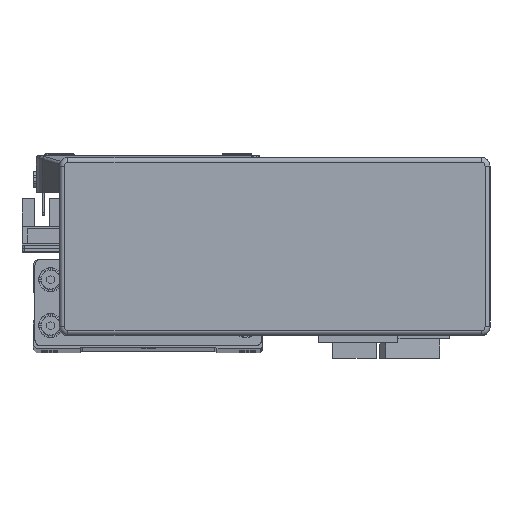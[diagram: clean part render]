
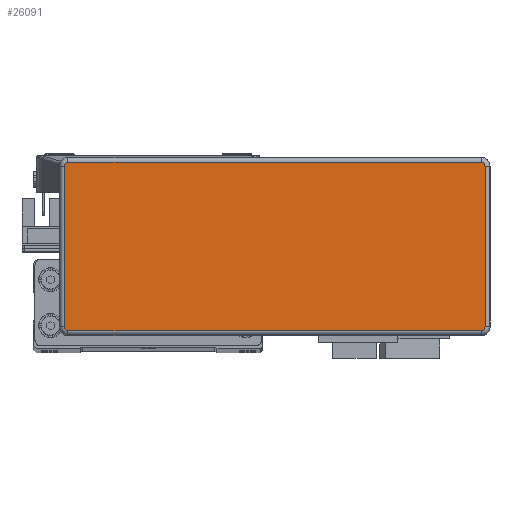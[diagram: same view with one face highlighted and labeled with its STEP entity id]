
A CAD part, top view. The second image highlights one B-rep face of the part: STEP entity #26091.
In plain terms, the highlighted planar face has unit normal (0, 0, 1) as drawn and (0, 0, -1) by its records, which use the part's own axes.
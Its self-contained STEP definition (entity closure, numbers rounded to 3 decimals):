
#12858 = EDGE_LOOP ( 'NONE', ( #29948, #29973, #29989, #29965, #29983, #29974, #29980, #29954 ) ) ;
#13382 = AXIS2_PLACEMENT_3D ( 'NONE', #23729, #23755, #23735 ) ;
#22983 = CARTESIAN_POINT ( 'NONE',  ( 73.295, -27.995, -32.2 ) ) ;
#23000 = CARTESIAN_POINT ( 'NONE',  ( -73.295, -27.995, -32.2 ) ) ;
#23010 = CARTESIAN_POINT ( 'NONE',  ( -71.995, 29.295, -32.2 ) ) ;
#23044 = CARTESIAN_POINT ( 'NONE',  ( -71.995, -29.295, -32.2 ) ) ;
#23051 = CARTESIAN_POINT ( 'NONE',  ( -73.295, 27.995, -32.2 ) ) ;
#23052 = CARTESIAN_POINT ( 'NONE',  ( 71.995, -29.295, -32.2 ) ) ;
#23059 = CARTESIAN_POINT ( 'NONE',  ( 73.295, 27.995, -32.2 ) ) ;
#23065 = CARTESIAN_POINT ( 'NONE',  ( 71.995, 29.295, -32.2 ) ) ;
#23729 = CARTESIAN_POINT ( 'NONE',  ( 71.995, -27.995, -32.2 ) ) ;
#23733 = PLANE ( 'NONE',  #13382 ) ;
#23735 = DIRECTION ( 'NONE',  ( 1., 0., 0. ) ) ;
#23755 = DIRECTION ( 'NONE',  ( 0., 0., 1. ) ) ;
#25762 = VERTEX_POINT ( 'NONE', #23000 ) ;
#25776 = VERTEX_POINT ( 'NONE', #23044 ) ;
#25780 = VERTEX_POINT ( 'NONE', #22983 ) ;
#25788 = VERTEX_POINT ( 'NONE', #23010 ) ;
#25793 = VERTEX_POINT ( 'NONE', #23052 ) ;
#25802 = VERTEX_POINT ( 'NONE', #23059 ) ;
#25830 = VERTEX_POINT ( 'NONE', #23051 ) ;
#25852 = VERTEX_POINT ( 'NONE', #23065 ) ;
#26091 = ADVANCED_FACE ( 'NONE', ( #29946 ), #23733, .F. ) ;
#29946 = FACE_OUTER_BOUND ( 'NONE', #12858, .T. ) ;
#29948 = ORIENTED_EDGE ( 'NONE', *, *, #34763, .T. ) ;
#29954 = ORIENTED_EDGE ( 'NONE', *, *, #34776, .T. ) ;
#29965 = ORIENTED_EDGE ( 'NONE', *, *, #34739, .T. ) ;
#29973 = ORIENTED_EDGE ( 'NONE', *, *, #34706, .T. ) ;
#29974 = ORIENTED_EDGE ( 'NONE', *, *, #34748, .T. ) ;
#29980 = ORIENTED_EDGE ( 'NONE', *, *, #34747, .T. ) ;
#29983 = ORIENTED_EDGE ( 'NONE', *, *, #34715, .T. ) ;
#29989 = ORIENTED_EDGE ( 'NONE', *, *, #34786, .T. ) ;
#31802 = LINE ( 'NONE', #33140, #31805 ) ;
#31805 = VECTOR ( 'NONE', #33150, 1000. ) ;
#31829 = CIRCLE ( 'NONE', #45362, 1.3 ) ;
#31874 = CIRCLE ( 'NONE', #45353, 1.3 ) ;
#31890 = VECTOR ( 'NONE', #36398, 1000. ) ;
#31897 = LINE ( 'NONE', #36384, #31890 ) ;
#31904 = CIRCLE ( 'NONE', #45374, 1.3 ) ;
#31913 = LINE ( 'NONE', #36478, #31968 ) ;
#31926 = CIRCLE ( 'NONE', #45451, 1.3 ) ;
#31962 = VECTOR ( 'NONE', #36499, 1000. ) ;
#31968 = VECTOR ( 'NONE', #36454, 1000. ) ;
#31977 = LINE ( 'NONE', #36511, #31962 ) ;
#33120 = DIRECTION ( 'NONE',  ( 1., 0., 0. ) ) ;
#33128 = DIRECTION ( 'NONE',  ( 0., 0., -1. ) ) ;
#33140 = CARTESIAN_POINT ( 'NONE',  ( -73.295, -27.995, -32.2 ) ) ;
#33144 = CARTESIAN_POINT ( 'NONE',  ( 71.995, -27.995, -32.2 ) ) ;
#33150 = DIRECTION ( 'NONE',  ( 0., 1., 0. ) ) ;
#34706 = EDGE_CURVE ( 'NONE', #25780, #25793, #31829, .T. ) ;
#34715 = EDGE_CURVE ( 'NONE', #25762, #25830, #31802, .T. ) ;
#34739 = EDGE_CURVE ( 'NONE', #25776, #25762, #31874, .T. ) ;
#34747 = EDGE_CURVE ( 'NONE', #25788, #25852, #31897, .T. ) ;
#34748 = EDGE_CURVE ( 'NONE', #25830, #25788, #31904, .T. ) ;
#34763 = EDGE_CURVE ( 'NONE', #25802, #25780, #31913, .T. ) ;
#34776 = EDGE_CURVE ( 'NONE', #25852, #25802, #31926, .T. ) ;
#34786 = EDGE_CURVE ( 'NONE', #25793, #25776, #31977, .T. ) ;
#36384 = CARTESIAN_POINT ( 'NONE',  ( 71.995, 29.295, -32.2 ) ) ;
#36398 = DIRECTION ( 'NONE',  ( 1., 0., 0. ) ) ;
#36400 = DIRECTION ( 'NONE',  ( 1., 0., 0. ) ) ;
#36405 = CARTESIAN_POINT ( 'NONE',  ( -71.995, -27.995, -32.2 ) ) ;
#36406 = DIRECTION ( 'NONE',  ( 0., 0., -1. ) ) ;
#36420 = DIRECTION ( 'NONE',  ( 0., 0., -1. ) ) ;
#36426 = DIRECTION ( 'NONE',  ( 1., 0., 0. ) ) ;
#36439 = CARTESIAN_POINT ( 'NONE',  ( -71.995, 27.995, -32.2 ) ) ;
#36454 = DIRECTION ( 'NONE',  ( 0., -1., 0. ) ) ;
#36478 = CARTESIAN_POINT ( 'NONE',  ( 73.295, -27.995, -32.2 ) ) ;
#36489 = DIRECTION ( 'NONE',  ( 0., 0., -1. ) ) ;
#36498 = CARTESIAN_POINT ( 'NONE',  ( 71.995, 27.995, -32.2 ) ) ;
#36499 = DIRECTION ( 'NONE',  ( -1., 0., 0. ) ) ;
#36500 = DIRECTION ( 'NONE',  ( 1., 0., 0. ) ) ;
#36511 = CARTESIAN_POINT ( 'NONE',  ( 71.995, -29.295, -32.2 ) ) ;
#45353 = AXIS2_PLACEMENT_3D ( 'NONE', #36405, #36406, #36400 ) ;
#45362 = AXIS2_PLACEMENT_3D ( 'NONE', #33144, #33128, #33120 ) ;
#45374 = AXIS2_PLACEMENT_3D ( 'NONE', #36439, #36420, #36426 ) ;
#45451 = AXIS2_PLACEMENT_3D ( 'NONE', #36498, #36489, #36500 ) ;
